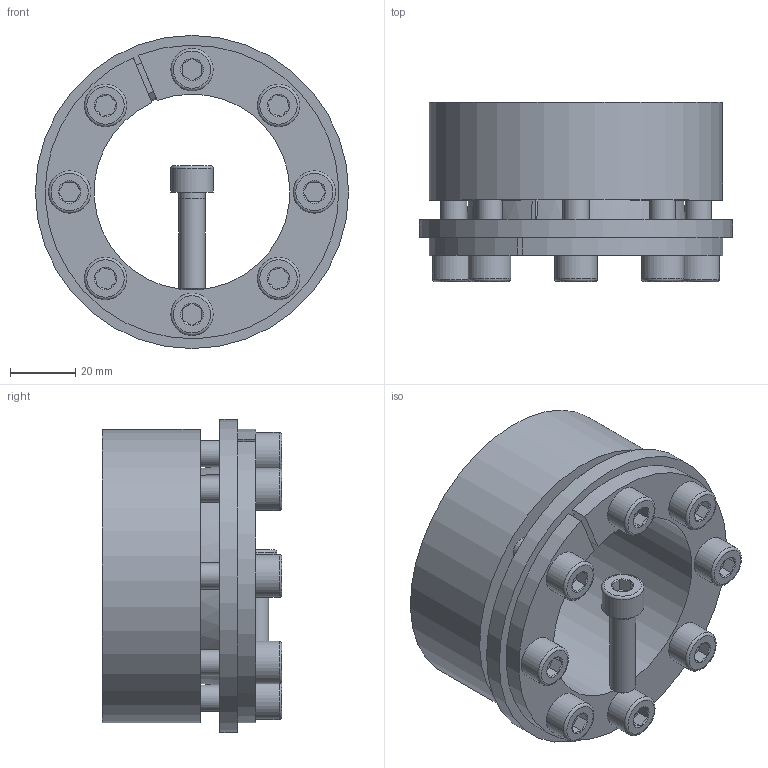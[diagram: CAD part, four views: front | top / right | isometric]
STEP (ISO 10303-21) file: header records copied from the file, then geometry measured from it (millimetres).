
FILE_DESCRIPTION( ( 'Unknown' ), '1' );
FILE_NAME( 'C:/Dokumente und Einstellungen/Sven/Desktop/homepage/cad - homepage/KBS71/KBS 71 - 60 x 90.stp', 'Unknown', ( 'Unknown' ), ( 'Unknown' ), 'XStep 1.0', 'Unknown', ' ' );
FILE_SCHEMA( ( 'automotive_design' ) );
Length unit declared in the file: millimetre
Products named in the file (3): Assem1; KBS 71 - 60 x 90; ISO EN DIN 4762 M8x30
Bounding box: 96 x 55 x 96 mm (x, y, z)
Volume: 292571.9 mm3; surface area: 101372.1 mm2
Topology: 11 solids, 11 shells, 305 faces, 659 edges, 394 vertices
Faces by surface type: plane 140, cylinder 76, cone 71, torus 18
Full cylindrical faces by diameter (mm): 7 x9, 8 x50, 13 x9, 96 x2
Entity records: 2318 total; most frequent: CARTESIAN_POINT 365, DIRECTION 352, ORIENTED_EDGE 272, AXIS2_PLACEMENT_3D 151, EDGE_CURVE 136, EDGE_LOOP 122, VERTEX_POINT 96, FACE_OUTER_BOUND 88
